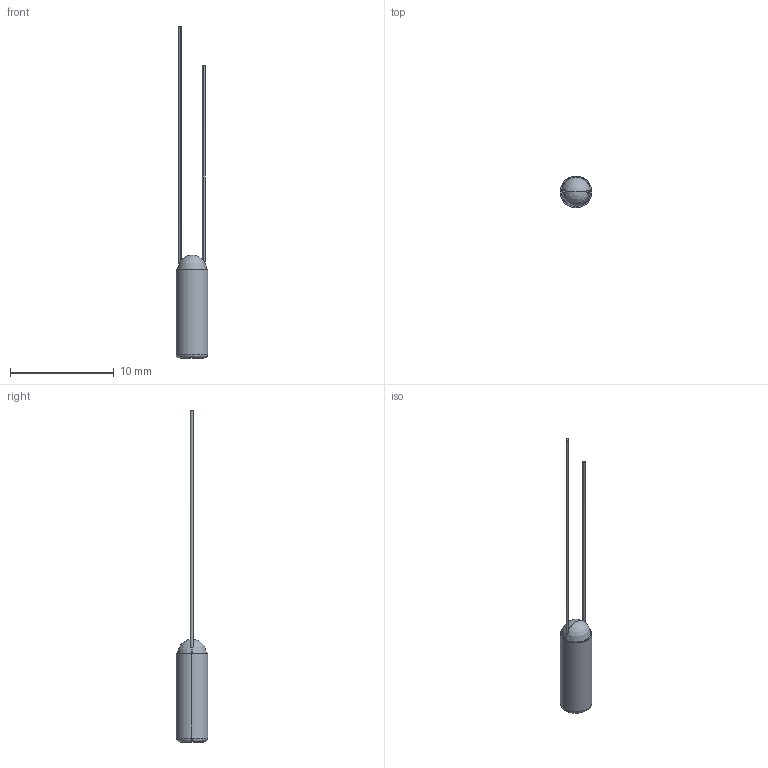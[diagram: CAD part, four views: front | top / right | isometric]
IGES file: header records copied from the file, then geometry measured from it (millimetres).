
Start section: SolidWorks IGES file using analytic representation for surfaces
Global section: file name: C:\Users\austin.mayabb\OneDrive - Lake Shore Cryotronics\SolidWorks Project\Defeatured Parts\Capacitance Sensors Defeatures\CS-501GR\CS-501GR.IGS; native system: SolidWorks 2020; preprocessor: SolidWorks 2020; author: austin.mayabb; date: 200511.094908; units: inch
Bounding box: 3.05 x 3.05 x 32 mm (x, y, z)
Surface area: 133.7 mm2 (no closed solid volume)
Topology: 0 solids, 0 shells, 14 faces, 226 edges, 225 vertices
Faces by surface type: revolution 8, bspline 6
